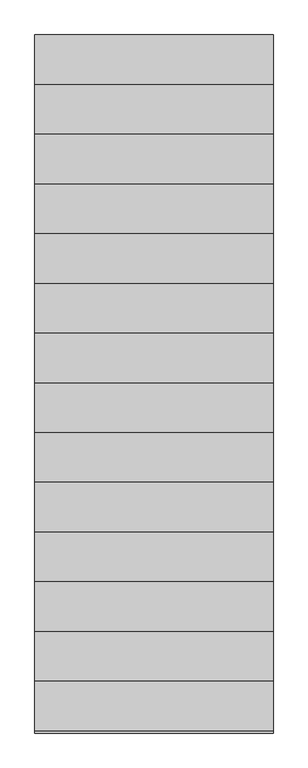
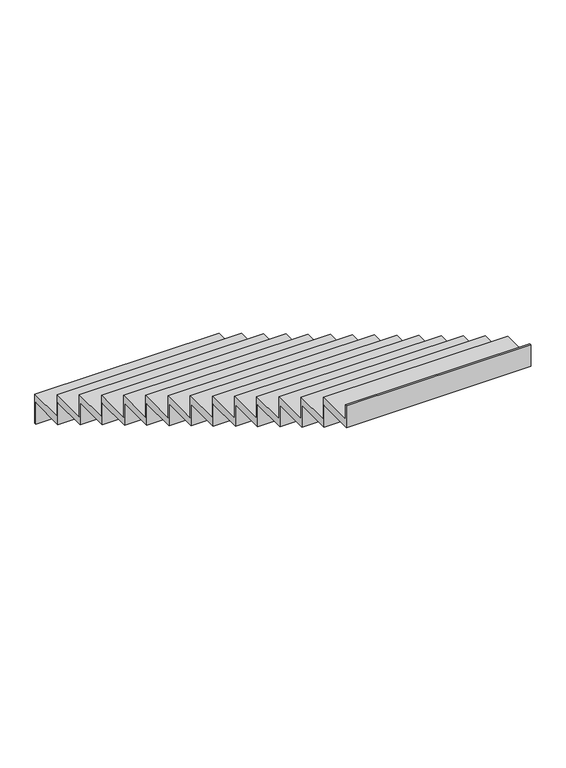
"""IFC4 building model written with IfcOpenShell, lengths in millimetres: stair flight geometry, Run_Stair_Non-Monolithic_50Treadx10Rise_Generic."""

from ifc_helpers import new_model, si_unit, frame, origin, place, context, project, spatial, polyline, outline, extrude, source, transform, mapped, element, save


def stair_flight_4ffd47d7(model_context):
    return source(origin(), model_context, "Body", "SweptSolid", [
        extrude(outline(polyline([(-388274.0026386, 2200.0), (-388284.0026386, 2200.0), (-388284.0026386, 2350.0), (-388534.0026386, 2350.0), (-388534.0026386, 2500.0), (-388784.0026386, 2500.0), (-388784.0026386, 2650.0), (-389034.0026386, 2650.0), (-389034.0026386, 2800.0), (-389284.0026386, 2800.0), (-389284.0026386, 2950.0), (-389534.0026386, 2950.0), (-389534.0026386, 3100.0), (-389784.0026386, 3100.0), (-389784.0026386, 3250.0), (-390034.0026386, 3250.0), (-390034.0026386, 3400.0), (-390284.0026386, 3400.0), (-390284.0026386, 3550.0), (-390534.0026386, 3550.0), (-390534.0026386, 3700.0), (-390784.0026386, 3700.0), (-390784.0026386, 3850.0), (-391034.0026386, 3850.0), (-391034.0026386, 4000.0), (-391284.0026386, 4000.0), (-391284.0026386, 4150.0), (-391534.0026386, 4150.0), (-391534.0026386, 4300.0), (-391784.0026386, 4300.0), (-391784.0026386, 4450.0), (-391774.0026386, 4450.0), (-391774.0026386, 4350.0), (-391524.0026386, 4350.0), (-391524.0026386, 4200.0), (-391274.0026386, 4200.0), (-391274.0026386, 4050.0), (-391024.0026386, 4050.0), (-391024.0026386, 3900.0), (-390774.0026386, 3900.0), (-390774.0026386, 3750.0), (-390524.0026386, 3750.0), (-390524.0026386, 3600.0), (-390274.0026386, 3600.0), (-390274.0026386, 3450.0), (-390024.0026386, 3450.0), (-390024.0026386, 3300.0), (-389774.0026386, 3300.0), (-389774.0026386, 3150.0), (-389524.0026386, 3150.0), (-389524.0026386, 3000.0), (-389274.0026386, 3000.0), (-389274.0026386, 2850.0), (-389024.0026386, 2850.0), (-389024.0026386, 2700.0), (-388774.0026386, 2700.0), (-388774.0026386, 2550.0), (-388524.0026386, 2550.0), (-388524.0026386, 2400.0), (-388274.0026386, 2400.0), (-388274.0026386, 2200.0)])), frame((423751.3206883, 0.0, 0.0), z_axis=(1.0, 0.0, 0.0), x_axis=(0.0, 1.0, 0.0)), (0.0, 0.0, 1.0), 1200.0),
    ])


if __name__ == "__main__":
    model = new_model("IFC4")
    model_context = context("Model", 3, world=origin())
    ifc_project = project(units=[si_unit("LENGTHUNIT", "METRE", prefix="MILLI")], contexts=[model_context])
    site = spatial("IfcSite", under=ifc_project)
    building = spatial("IfcBuilding", under=site)
    placement = place(None, origin())
    stair_flight_shape = stair_flight_4ffd47d7(model_context)
    element("IfcStairFlight", 1, ObjectType="Run_Stair_Non-Monolithic_50Treadx10Rise_Generic", at=placement, inside=building, context=model_context, shape_type="MappedRepresentation", body=[
        mapped(stair_flight_shape, transform((0.0, 0.0, 0.0), x_axis=(1.0, 0.0, 0.0), y_axis=(0.0, 1.0, 0.0), z_axis=(0.0, 0.0, 1.0))),
    ])
    save(model, "model.ifc")
